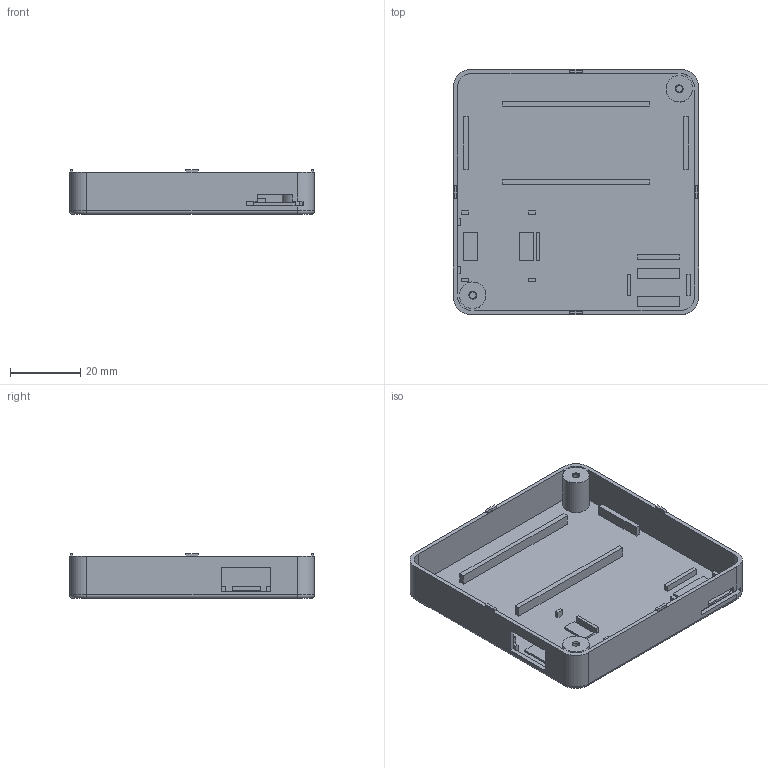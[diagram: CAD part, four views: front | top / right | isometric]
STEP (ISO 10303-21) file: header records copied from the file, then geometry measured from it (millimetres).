
FILE_DESCRIPTION(('Open CASCADE Model'),'2;1');
FILE_NAME('Open CASCADE Shape Model','2026-11-03T07:33:50',('Author'),( 'Open CASCADE'),'Open CASCADE STEP processor 7.9','Open CASCADE 7.9' ,'Unknown');
FILE_SCHEMA(('AUTOMOTIVE_DESIGN { 1 0 10303 214 1 1 1 1 }'));
Length unit declared in the file: millimetre
Products named in the file (1): Open CASCADE STEP translator 7.9 2
Bounding box: 70 x 70 x 12.8 mm (x, y, z)
Volume: 12488.2 mm3; surface area: 17006.1 mm2
Topology: 1 solids, 1 shells, 170 faces, 428 edges, 282 vertices
Faces by surface type: plane 146, cylinder 18, torus 4, cone 2
Full cylindrical faces by diameter (mm): 2 x2
Entity records: 10489 total; most frequent: CARTESIAN_POINT 1911, DIRECTION 1533, LINE 1074, VECTOR 1074, ORIENTED_EDGE 856, PCURVE 856, DEFINITIONAL_REPRESENTATION 856, EDGE_CURVE 428
